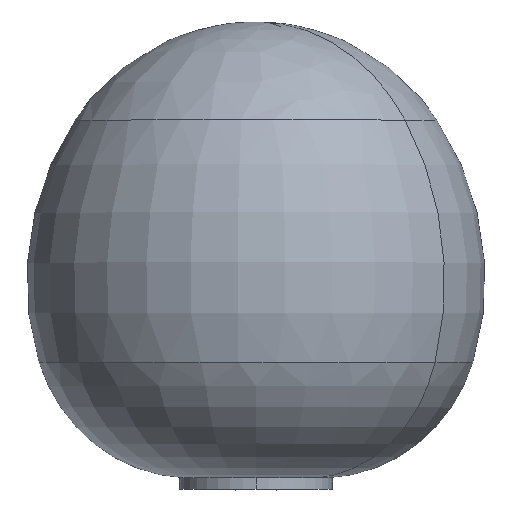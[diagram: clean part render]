
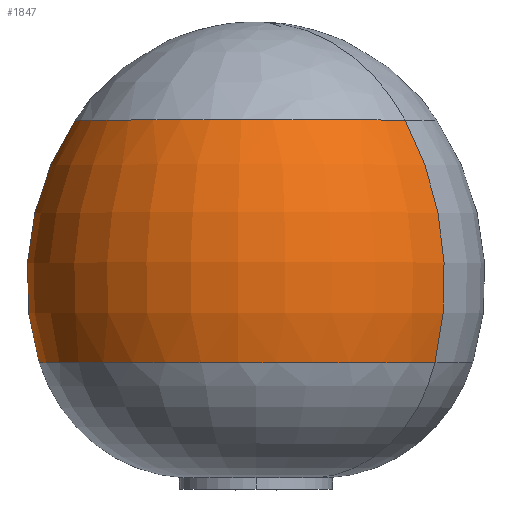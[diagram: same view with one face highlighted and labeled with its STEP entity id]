
A CAD part, top view. The second image highlights one B-rep face of the part: STEP entity #1847.
In plain terms, the highlighted toroidal (fillet/blend) face has major radius 56.856 mm and minor radius 256.574 mm.
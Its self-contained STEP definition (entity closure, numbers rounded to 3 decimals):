
#6 = AXIS2_PLACEMENT_3D ( 'NONE', #60, #498, #937 ) ;
#60 = CARTESIAN_POINT ( 'NONE',  ( -59.778, 180.595, 47.683 ) ) ;
#70 = ORIENTED_EDGE ( 'NONE', *, *, #1043, .F. ) ;
#184 = DIRECTION ( 'NONE',  ( 0.823, 0., 0.568 ) ) ;
#326 = DIRECTION ( 'NONE',  ( 0., -1., 0. ) ) ;
#341 = CIRCLE ( 'NONE', #6, 256.574 ) ;
#348 = TOROIDAL_SURFACE ( 'NONE', #1239, -56.856, 256.574 ) ;
#391 = EDGE_CURVE ( 'NONE', #921, #892, #1320, .T. ) ;
#397 = CIRCLE ( 'NONE', #522, 189.585 ) ;
#420 = DIRECTION ( 'NONE',  ( 0., -1., 0. ) ) ;
#490 = AXIS2_PLACEMENT_3D ( 'NONE', #1017, #1457, #1585 ) ;
#498 = DIRECTION ( 'NONE',  ( 0.568, 0., -0.823 ) ) ;
#521 = CIRCLE ( 'NONE', #903, 158.06 ) ;
#522 = AXIS2_PLACEMENT_3D ( 'NONE', #1072, #1498, #805 ) ;
#530 = ORIENTED_EDGE ( 'NONE', *, *, #998, .F. ) ;
#656 = CARTESIAN_POINT ( 'NONE',  ( 117.045, 320.743, 169.841 ) ) ;
#805 = DIRECTION ( 'NONE',  ( 0.823, 0., 0.568 ) ) ;
#825 = FACE_OUTER_BOUND ( 'NONE', #857, .T. ) ;
#856 = EDGE_CURVE ( 'NONE', #1003, #921, #521, .T. ) ;
#857 = EDGE_LOOP ( 'NONE', ( #1593, #1141, #70, #530 ) ) ;
#892 = VERTEX_POINT ( 'NONE', #1324 ) ;
#903 = AXIS2_PLACEMENT_3D ( 'NONE', #1295, #326, #184 ) ;
#921 = VERTEX_POINT ( 'NONE', #1344 ) ;
#937 = DIRECTION ( 'NONE',  ( -0.823, 0., -0.568 ) ) ;
#998 = EDGE_CURVE ( 'NONE', #1003, #1311, #341, .T. ) ;
#1003 = VERTEX_POINT ( 'NONE', #656 ) ;
#1017 = CARTESIAN_POINT ( 'NONE',  ( 33.778, 180.595, 112.317 ) ) ;
#1043 = EDGE_CURVE ( 'NONE', #1311, #892, #397, .T. ) ;
#1072 = CARTESIAN_POINT ( 'NONE',  ( -13., 109.201, 80. ) ) ;
#1113 = CARTESIAN_POINT ( 'NONE',  ( 142.982, 109.201, 187.759 ) ) ;
#1141 = ORIENTED_EDGE ( 'NONE', *, *, #391, .T. ) ;
#1239 = AXIS2_PLACEMENT_3D ( 'NONE', #1399, #420, #1419 ) ;
#1295 = CARTESIAN_POINT ( 'NONE',  ( -13., 320.743, 80. ) ) ;
#1311 = VERTEX_POINT ( 'NONE', #1113 ) ;
#1320 = CIRCLE ( 'NONE', #490, 256.574 ) ;
#1324 = CARTESIAN_POINT ( 'NONE',  ( -168.982, 109.201, -27.759 ) ) ;
#1344 = CARTESIAN_POINT ( 'NONE',  ( -143.045, 320.743, -9.841 ) ) ;
#1399 = CARTESIAN_POINT ( 'NONE',  ( -13., 180.595, 80. ) ) ;
#1419 = DIRECTION ( 'NONE',  ( 0.823, 0., 0.568 ) ) ;
#1457 = DIRECTION ( 'NONE',  ( -0.568, 0., 0.823 ) ) ;
#1498 = DIRECTION ( 'NONE',  ( 0., -1., 0. ) ) ;
#1585 = DIRECTION ( 'NONE',  ( 0.823, 0., 0.568 ) ) ;
#1593 = ORIENTED_EDGE ( 'NONE', *, *, #856, .T. ) ;
#1847 = ADVANCED_FACE ( 'NONE', ( #825 ), #348, .T. ) ;
